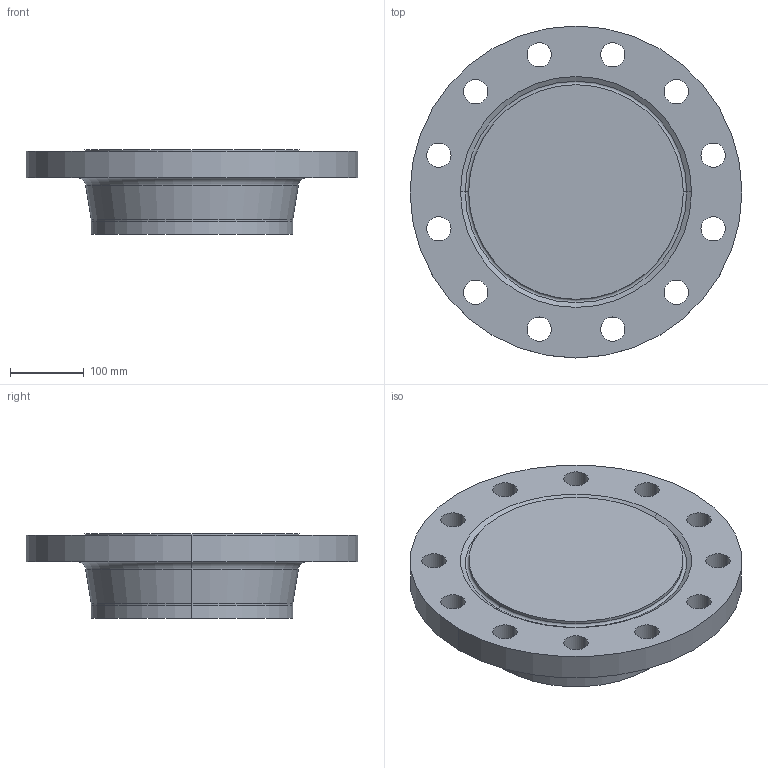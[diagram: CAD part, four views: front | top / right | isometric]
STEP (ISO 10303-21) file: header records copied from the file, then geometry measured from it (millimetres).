
FILE_DESCRIPTION (( 'STEP AP214' ), '1' );
FILE_NAME ('PN40 DN250 Type 21(ii) - Type H Face.STEP', '2019-01-05T03:21:03', ( '' ), ( '' ), 'SwSTEP 2.0', 'SolidWorks 2019', '' );
FILE_SCHEMA (( 'AUTOMOTIVE_DESIGN' ));
Length unit declared in the file: millimetre
Products named in the file (1): PN40 DN250 Type 21(ii) - Type H Face
Bounding box: 450 x 450 x 115 mm (x, y, z)
Volume: 10180982.1 mm3; surface area: 455330.1 mm2
Topology: 1 solids, 1 shells, 44 faces, 110 edges, 70 vertices
Faces by surface type: cylinder 30, torus 6, cone 4, plane 4
Entity records: 1432 total; most frequent: DIRECTION 276, CARTESIAN_POINT 225, ORIENTED_EDGE 220, AXIS2_PLACEMENT_3D 121, EDGE_CURVE 110, CIRCLE 76, VERTEX_POINT 70, EDGE_LOOP 70
